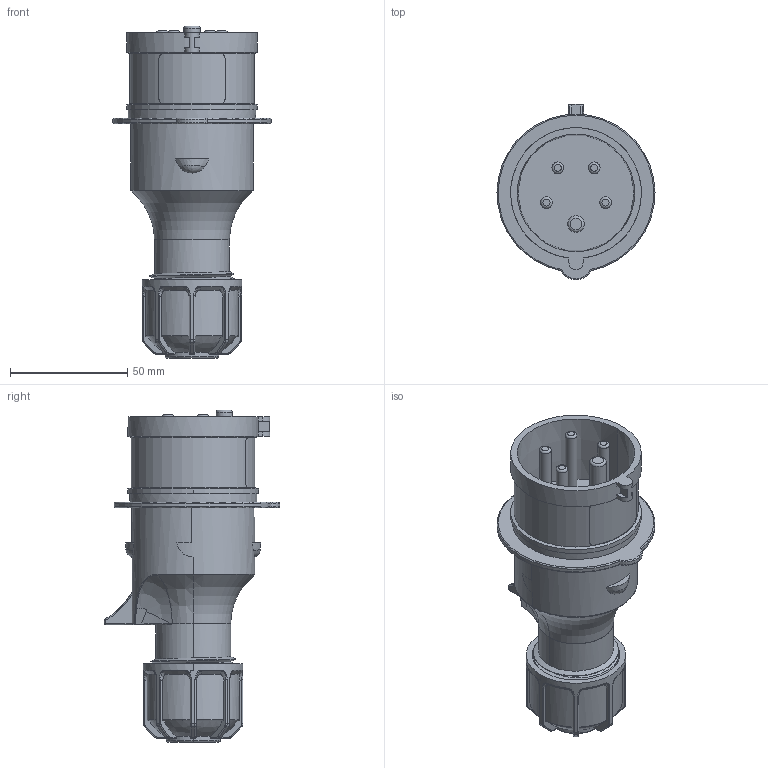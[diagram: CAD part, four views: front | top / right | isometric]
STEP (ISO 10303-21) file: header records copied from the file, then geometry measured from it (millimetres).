
FILE_DESCRIPTION(('FreeCAD Model'),'2;1');
FILE_NAME('Open CASCADE Shape Model','2026-02-04T09:37:27',(''),(''), 'Open CASCADE STEP processor 7.8','FreeCAD','Unknown');
FILE_SCHEMA(('AUTOMOTIVE_DESIGN { 1 0 10303 214 1 1 1 1 }'));
Length unit declared in the file: millimetre
Products named in the file (8): TL3P16453; Tomada; Pino Neutro; Pino L3; Pino Terra; Pino L2; Pino L1; Prensa cabo
Assembly tree (7 placements, depth 2):
  TL3P16453
    Tomada
    Pino Neutro
    Pino L3
    Pino Terra
    Pino L2
    Pino L1
    Prensa cabo
Bounding box: 67.5 x 74.97 x 141.8 mm (x, y, z)
Volume: 136532.5 mm3; surface area: 50118.4 mm2
Topology: 7 solids, 36 shells, 552 faces, 1279 edges, 806 vertices
Faces by surface type: bspline 207, plane 148, cylinder 113, torus 54, cone 24, sphere 6
Full cylindrical faces by diameter (mm): 5 x4, 7 x1, 54.4 x1
Entity records: 36066 total; most frequent: CARTESIAN_POINT 25049, ORIENTED_EDGE 2554, DIRECTION 1723, EDGE_CURVE 1277, VERTEX_POINT 806, AXIS2_PLACEMENT_3D 696, B_SPLINE_CURVE_WITH_KNOTS 593, FACE_BOUND 561
